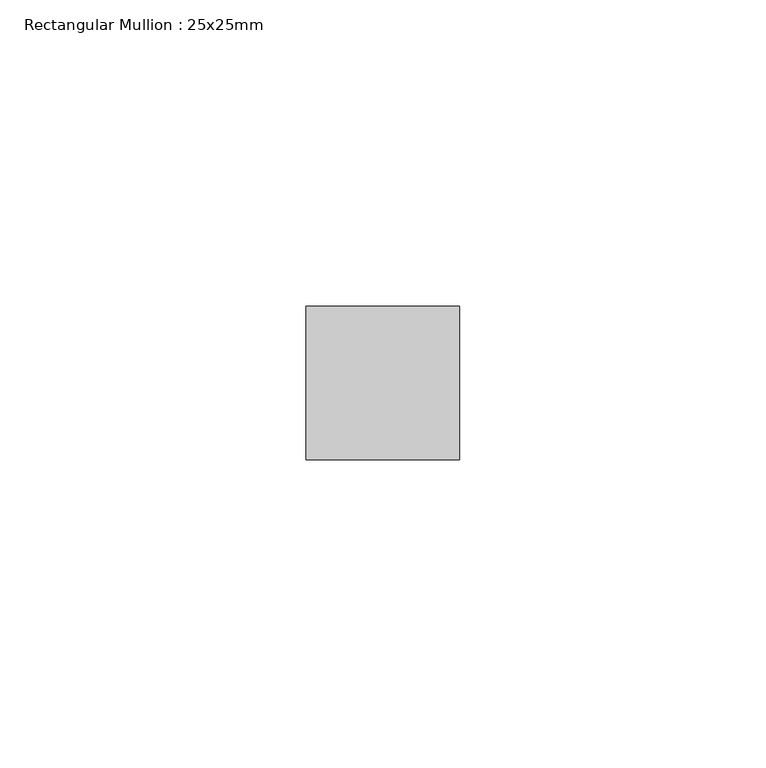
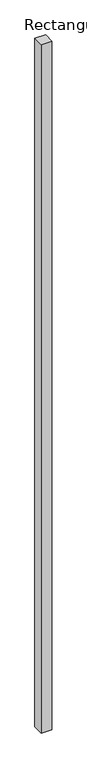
"""IFC4 building model written with IfcOpenShell, lengths in millimetres: member geometry, Rectangular Mullion : 25x25mm."""

from ifc_helpers import new_model, si_unit, frame, origin, place, context, project, spatial, polyline, outline, extrude, source, transform, mapped, element, save


def rectangular_mullion_25x25mm_028a5a57(model_context):
    return source(origin(), model_context, "Body", "SweptSolid", [
        extrude(outline(polyline([(0.0, 0.5), (0.0, -24.5), (-25.0, -24.5), (-25.0, 0.5), (0.0, 0.5)])), frame((0.0, 0.0, -1690.0), z_axis=(0.0, 0.0, 1.0), x_axis=(1.0, 0.0, 0.0)), (0.0, 0.0, 1.0), 1690.0),
    ])


if __name__ == "__main__":
    model = new_model("IFC4")
    model_context = context("Model", 3, world=origin())
    ifc_project = project(units=[si_unit("LENGTHUNIT", "METRE", prefix="MILLI")], contexts=[model_context])
    site = spatial("IfcSite", under=ifc_project)
    building = spatial("IfcBuilding", under=site)
    placement = place(None, origin())
    rectangular_mullion_25x25mm_shape = rectangular_mullion_25x25mm_028a5a57(model_context)
    element("IfcMember", 1, ObjectType="Rectangular Mullion : 25x25mm", at=placement, inside=building, context=model_context, shape_type="MappedRepresentation", body=[
        mapped(rectangular_mullion_25x25mm_shape, transform((0.0, 0.0, 0.0), x_axis=(1.0, 0.0, 0.0), y_axis=(0.0, 1.0, 0.0), z_axis=(0.0, 0.0, 1.0))),
    ])
    save(model, "model.ifc")
